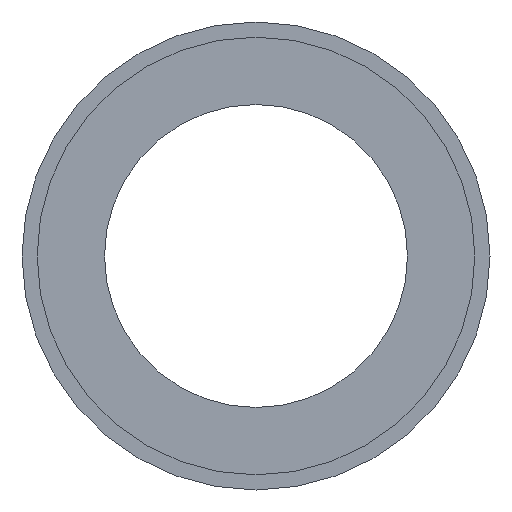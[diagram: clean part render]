
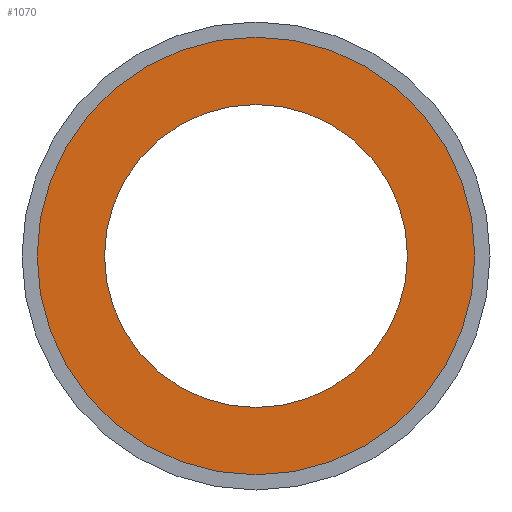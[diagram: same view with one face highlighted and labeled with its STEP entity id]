
A CAD part, front view. The second image highlights one B-rep face of the part: STEP entity #1070.
In plain terms, the highlighted planar face has unit normal (0, -1, 0).
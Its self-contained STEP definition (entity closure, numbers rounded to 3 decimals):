
#325 = VERTEX_POINT ( 'NONE', #2368 ) ;
#333 = PLANE ( 'NONE',  #3107 ) ;
#412 = DIRECTION ( 'NONE',  ( 0., -1., 0. ) ) ;
#420 = ORIENTED_EDGE ( 'NONE', *, *, #2144, .F. ) ;
#423 = DIRECTION ( 'NONE',  ( 0., 0., 1. ) ) ;
#861 = FACE_BOUND ( 'NONE', #3866, .T. ) ;
#965 = CARTESIAN_POINT ( 'NONE',  ( 0., -20., 45. ) ) ;
#970 = CIRCLE ( 'NONE', #1051, 45. ) ;
#1051 = AXIS2_PLACEMENT_3D ( 'NONE', #2446, #2461, #3093 ) ;
#1070 = ADVANCED_FACE ( 'NONE', ( #861, #1845 ), #333, .F. ) ;
#1085 = DIRECTION ( 'NONE',  ( 0., 1., 0. ) ) ;
#1198 = DIRECTION ( 'NONE',  ( 0., -1., 0. ) ) ;
#1636 = CARTESIAN_POINT ( 'NONE',  ( 0., -20., 0. ) ) ;
#1845 = FACE_OUTER_BOUND ( 'NONE', #2875, .T. ) ;
#1866 = CIRCLE ( 'NONE', #2722, 45. ) ;
#1931 = AXIS2_PLACEMENT_3D ( 'NONE', #3220, #412, #3850 ) ;
#2144 = EDGE_CURVE ( 'NONE', #3332, #3391, #1866, .T. ) ;
#2368 = CARTESIAN_POINT ( 'NONE',  ( 0., -20., -65. ) ) ;
#2394 = EDGE_CURVE ( 'NONE', #3391, #3332, #970, .T. ) ;
#2446 = CARTESIAN_POINT ( 'NONE',  ( 0., -20., 0. ) ) ;
#2461 = DIRECTION ( 'NONE',  ( 0., -1., 0. ) ) ;
#2491 = ORIENTED_EDGE ( 'NONE', *, *, #3839, .T. ) ;
#2649 = ORIENTED_EDGE ( 'NONE', *, *, #2394, .F. ) ;
#2676 = CIRCLE ( 'NONE', #1931, 65. ) ;
#2722 = AXIS2_PLACEMENT_3D ( 'NONE', #1636, #3545, #2972 ) ;
#2757 = VERTEX_POINT ( 'NONE', #3264 ) ;
#2875 = EDGE_LOOP ( 'NONE', ( #2491, #3378 ) ) ;
#2972 = DIRECTION ( 'NONE',  ( 0., 0., -1. ) ) ;
#3002 = CARTESIAN_POINT ( 'NONE',  ( 0., -20., 45. ) ) ;
#3093 = DIRECTION ( 'NONE',  ( 0., 0., -1. ) ) ;
#3107 = AXIS2_PLACEMENT_3D ( 'NONE', #965, #1085, #423 ) ;
#3220 = CARTESIAN_POINT ( 'NONE',  ( 0., -20., 0. ) ) ;
#3264 = CARTESIAN_POINT ( 'NONE',  ( 0., -20., 65. ) ) ;
#3332 = VERTEX_POINT ( 'NONE', #3002 ) ;
#3370 = CARTESIAN_POINT ( 'NONE',  ( 0., -20., -45. ) ) ;
#3378 = ORIENTED_EDGE ( 'NONE', *, *, #3598, .T. ) ;
#3391 = VERTEX_POINT ( 'NONE', #3370 ) ;
#3413 = DIRECTION ( 'NONE',  ( 0., 0., -1. ) ) ;
#3545 = DIRECTION ( 'NONE',  ( 0., -1., 0. ) ) ;
#3554 = CIRCLE ( 'NONE', #3584, 65. ) ;
#3584 = AXIS2_PLACEMENT_3D ( 'NONE', #3755, #1198, #3413 ) ;
#3598 = EDGE_CURVE ( 'NONE', #2757, #325, #3554, .T. ) ;
#3755 = CARTESIAN_POINT ( 'NONE',  ( 0., -20., 0. ) ) ;
#3839 = EDGE_CURVE ( 'NONE', #325, #2757, #2676, .T. ) ;
#3850 = DIRECTION ( 'NONE',  ( 0., 0., -1. ) ) ;
#3866 = EDGE_LOOP ( 'NONE', ( #2649, #420 ) ) ;
